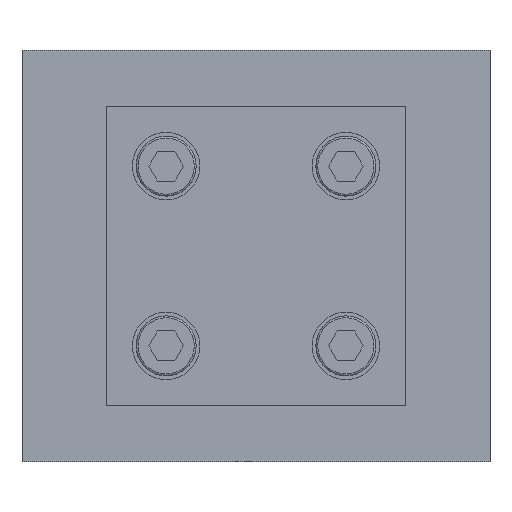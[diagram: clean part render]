
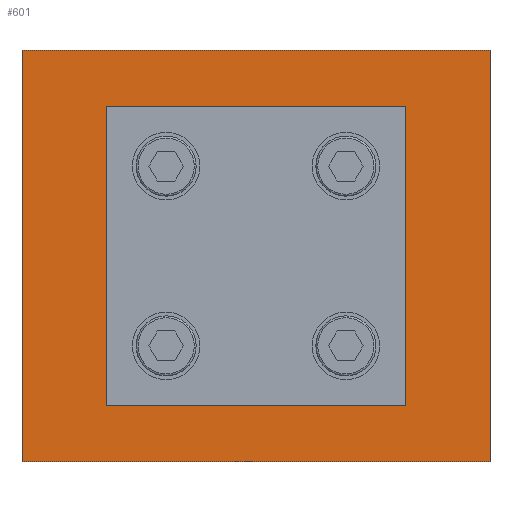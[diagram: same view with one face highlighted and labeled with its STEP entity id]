
A CAD part, left-side view. The second image highlights one B-rep face of the part: STEP entity #601.
In plain terms, the highlighted planar face has unit normal (-1, 0, 0).
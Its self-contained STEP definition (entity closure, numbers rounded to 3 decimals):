
#143=PLANE('',#4316);
#333=FACE_BOUND('',#1093,.T.);
#334=FACE_BOUND('',#1094,.T.);
#335=FACE_BOUND('',#1095,.T.);
#336=FACE_BOUND('',#1096,.T.);
#337=FACE_BOUND('',#1097,.T.);
#338=FACE_BOUND('',#1098,.T.);
#339=FACE_BOUND('',#1099,.T.);
#340=FACE_BOUND('',#1100,.T.);
#341=FACE_BOUND('',#1101,.T.);
#601=ADVANCED_FACE('',(#333,#334,#335,#336,#337,#338,#339,#340,#341),#143,
 .F.);
#1093=EDGE_LOOP('',(#1737,#1738,#1739,#1740));
#1094=EDGE_LOOP('',(#1741));
#1095=EDGE_LOOP('',(#1742,#1743,#1744,#1745));
#1096=EDGE_LOOP('',(#1746));
#1097=EDGE_LOOP('',(#1747,#1748,#1749,#1750));
#1098=EDGE_LOOP('',(#1751));
#1099=EDGE_LOOP('',(#1752,#1753,#1754,#1755));
#1100=EDGE_LOOP('',(#1756));
#1101=EDGE_LOOP('',(#1757,#1758,#1759,#1760));
#1530=CIRCLE('',#4304,5.);
#1531=CIRCLE('',#4305,4.85);
#1532=CIRCLE('',#4306,4.25);
#1533=CIRCLE('',#4307,5.);
#1534=CIRCLE('',#4308,4.85);
#1535=CIRCLE('',#4309,4.25);
#1536=CIRCLE('',#4310,4.25);
#1537=CIRCLE('',#4311,5.);
#1538=CIRCLE('',#4312,4.85);
#1539=CIRCLE('',#4313,4.25);
#1540=CIRCLE('',#4314,5.);
#1541=CIRCLE('',#4315,4.85);
#1737=ORIENTED_EDGE('',*,*,#3175,.F.);
#1738=ORIENTED_EDGE('',*,*,#3176,.T.);
#1739=ORIENTED_EDGE('',*,*,#3177,.F.);
#1740=ORIENTED_EDGE('',*,*,#3178,.F.);
#1741=ORIENTED_EDGE('',*,*,#3179,.T.);
#1742=ORIENTED_EDGE('',*,*,#3180,.F.);
#1743=ORIENTED_EDGE('',*,*,#3181,.T.);
#1744=ORIENTED_EDGE('',*,*,#3182,.F.);
#1745=ORIENTED_EDGE('',*,*,#3183,.F.);
#1746=ORIENTED_EDGE('',*,*,#3184,.T.);
#1747=ORIENTED_EDGE('',*,*,#3185,.T.);
#1748=ORIENTED_EDGE('',*,*,#3186,.F.);
#1749=ORIENTED_EDGE('',*,*,#3187,.F.);
#1750=ORIENTED_EDGE('',*,*,#3188,.T.);
#1751=ORIENTED_EDGE('',*,*,#3189,.T.);
#1752=ORIENTED_EDGE('',*,*,#3190,.F.);
#1753=ORIENTED_EDGE('',*,*,#3191,.T.);
#1754=ORIENTED_EDGE('',*,*,#3192,.F.);
#1755=ORIENTED_EDGE('',*,*,#3193,.F.);
#1756=ORIENTED_EDGE('',*,*,#3194,.T.);
#1757=ORIENTED_EDGE('',*,*,#3195,.F.);
#1758=ORIENTED_EDGE('',*,*,#3196,.T.);
#1759=ORIENTED_EDGE('',*,*,#3197,.F.);
#1760=ORIENTED_EDGE('',*,*,#3198,.F.);
#2776=VERTEX_POINT('',#7559);
#2777=VERTEX_POINT('',#7560);
#2778=VERTEX_POINT('',#7562);
#2779=VERTEX_POINT('',#7564);
#2780=VERTEX_POINT('',#7567);
#2781=VERTEX_POINT('',#7569);
#2782=VERTEX_POINT('',#7570);
#2783=VERTEX_POINT('',#7572);
#2784=VERTEX_POINT('',#7574);
#2785=VERTEX_POINT('',#7577);
#2786=VERTEX_POINT('',#7579);
#2787=VERTEX_POINT('',#7580);
#2788=VERTEX_POINT('',#7582);
#2789=VERTEX_POINT('',#7584);
#2790=VERTEX_POINT('',#7587);
#2791=VERTEX_POINT('',#7589);
#2792=VERTEX_POINT('',#7590);
#2793=VERTEX_POINT('',#7592);
#2794=VERTEX_POINT('',#7594);
#2795=VERTEX_POINT('',#7597);
#2796=VERTEX_POINT('',#7599);
#2797=VERTEX_POINT('',#7600);
#2798=VERTEX_POINT('',#7602);
#2799=VERTEX_POINT('',#7604);
#3175=EDGE_CURVE('',#2776,#2777,#3663,.T.);
#3176=EDGE_CURVE('',#2776,#2778,#1530,.T.);
#3177=EDGE_CURVE('',#2779,#2778,#3664,.T.);
#3178=EDGE_CURVE('',#2777,#2779,#1531,.T.);
#3179=EDGE_CURVE('',#2780,#2780,#1532,.T.);
#3180=EDGE_CURVE('',#2781,#2782,#3665,.T.);
#3181=EDGE_CURVE('',#2781,#2783,#1533,.T.);
#3182=EDGE_CURVE('',#2784,#2783,#3666,.T.);
#3183=EDGE_CURVE('',#2782,#2784,#1534,.T.);
#3184=EDGE_CURVE('',#2785,#2785,#1535,.T.);
#3185=EDGE_CURVE('',#2786,#2787,#3667,.T.);
#3186=EDGE_CURVE('',#2788,#2787,#3668,.T.);
#3187=EDGE_CURVE('',#2789,#2788,#3669,.T.);
#3188=EDGE_CURVE('',#2789,#2786,#3670,.T.);
#3189=EDGE_CURVE('',#2790,#2790,#1536,.T.);
#3190=EDGE_CURVE('',#2791,#2792,#3671,.T.);
#3191=EDGE_CURVE('',#2791,#2793,#1537,.T.);
#3192=EDGE_CURVE('',#2794,#2793,#3672,.T.);
#3193=EDGE_CURVE('',#2792,#2794,#1538,.T.);
#3194=EDGE_CURVE('',#2795,#2795,#1539,.T.);
#3195=EDGE_CURVE('',#2796,#2797,#3673,.T.);
#3196=EDGE_CURVE('',#2796,#2798,#1540,.T.);
#3197=EDGE_CURVE('',#2799,#2798,#3674,.T.);
#3198=EDGE_CURVE('',#2797,#2799,#1541,.T.);
#3663=LINE('',#7558,#3978);
#3664=LINE('',#7563,#3979);
#3665=LINE('',#7568,#3980);
#3666=LINE('',#7573,#3981);
#3667=LINE('',#7578,#3982);
#3668=LINE('',#7581,#3983);
#3669=LINE('',#7583,#3984);
#3670=LINE('',#7585,#3985);
#3671=LINE('',#7588,#3986);
#3672=LINE('',#7593,#3987);
#3673=LINE('',#7598,#3988);
#3674=LINE('',#7603,#3989);
#3978=VECTOR('',#4777,1.);
#3979=VECTOR('',#4780,1.);
#3980=VECTOR('',#4785,1.);
#3981=VECTOR('',#4788,1.);
#3982=VECTOR('',#4793,1.);
#3983=VECTOR('',#4794,1.);
#3984=VECTOR('',#4795,1.);
#3985=VECTOR('',#4796,1.);
#3986=VECTOR('',#4799,1.);
#3987=VECTOR('',#4802,1.);
#3988=VECTOR('',#4807,1.);
#3989=VECTOR('',#4810,1.);
#4304=AXIS2_PLACEMENT_3D('',#7561,#4778,#4779);
#4305=AXIS2_PLACEMENT_3D('',#7565,#4781,#4782);
#4306=AXIS2_PLACEMENT_3D('',#7566,#4783,#4784);
#4307=AXIS2_PLACEMENT_3D('',#7571,#4786,#4787);
#4308=AXIS2_PLACEMENT_3D('',#7575,#4789,#4790);
#4309=AXIS2_PLACEMENT_3D('',#7576,#4791,#4792);
#4310=AXIS2_PLACEMENT_3D('',#7586,#4797,#4798);
#4311=AXIS2_PLACEMENT_3D('',#7591,#4800,#4801);
#4312=AXIS2_PLACEMENT_3D('',#7595,#4803,#4804);
#4313=AXIS2_PLACEMENT_3D('',#7596,#4805,#4806);
#4314=AXIS2_PLACEMENT_3D('',#7601,#4808,#4809);
#4315=AXIS2_PLACEMENT_3D('',#7605,#4811,#4812);
#4316=AXIS2_PLACEMENT_3D('',#7606,#4813,#4814);
#4777=DIRECTION('',(0.,1.,0.));
#4778=DIRECTION('',(1.,0.,0.));
#4779=DIRECTION('',(0.,0.,-1.));
#4780=DIRECTION('',(0.,0.,1.));
#4781=DIRECTION('',(1.,0.,0.));
#4782=DIRECTION('',(0.,0.,-1.));
#4783=DIRECTION('',(1.,0.,0.));
#4784=DIRECTION('',(0.,0.,-1.));
#4785=DIRECTION('',(0.,1.,0.));
#4786=DIRECTION('',(1.,0.,0.));
#4787=DIRECTION('',(0.,0.,-1.));
#4788=DIRECTION('',(0.,0.,1.));
#4789=DIRECTION('',(1.,0.,0.));
#4790=DIRECTION('',(0.,0.,-1.));
#4791=DIRECTION('',(1.,0.,0.));
#4792=DIRECTION('',(0.,0.,-1.));
#4793=DIRECTION('',(0.,-1.,0.));
#4794=DIRECTION('',(0.,0.,-1.));
#4795=DIRECTION('',(0.,-1.,0.));
#4796=DIRECTION('',(0.,0.,-1.));
#4797=DIRECTION('',(1.,0.,0.));
#4798=DIRECTION('',(0.,0.,-1.));
#4799=DIRECTION('',(0.,1.,0.));
#4800=DIRECTION('',(1.,0.,0.));
#4801=DIRECTION('',(0.,0.,-1.));
#4802=DIRECTION('',(0.,0.,1.));
#4803=DIRECTION('',(1.,0.,0.));
#4804=DIRECTION('',(0.,0.,-1.));
#4805=DIRECTION('',(1.,0.,0.));
#4806=DIRECTION('',(0.,0.,-1.));
#4807=DIRECTION('',(0.,1.,0.));
#4808=DIRECTION('',(1.,0.,0.));
#4809=DIRECTION('',(0.,0.,-1.));
#4810=DIRECTION('',(0.,0.,1.));
#4811=DIRECTION('',(1.,0.,0.));
#4812=DIRECTION('',(0.,0.,-1.));
#4813=DIRECTION('',(1.,0.,0.));
#4814=DIRECTION('',(0.,0.,-1.));
#7558=CARTESIAN_POINT('',(-100.5,62.5,31.));
#7559=CARTESIAN_POINT('',(-100.5,-29.,31.));
#7560=CARTESIAN_POINT('',(-100.5,-28.85,31.));
#7561=CARTESIAN_POINT('',(-100.5,-24.,31.));
#7562=CARTESIAN_POINT('',(-100.5,-24.,36.));
#7563=CARTESIAN_POINT('',(-100.5,-24.,110.));
#7564=CARTESIAN_POINT('',(-100.5,-24.,35.85));
#7565=CARTESIAN_POINT('',(-100.5,-24.,31.));
#7566=CARTESIAN_POINT('',(-100.5,-24.,31.));
#7567=CARTESIAN_POINT('',(-100.5,-24.,26.75));
#7568=CARTESIAN_POINT('',(-100.5,62.5,79.));
#7569=CARTESIAN_POINT('',(-100.5,19.,79.));
#7570=CARTESIAN_POINT('',(-100.5,19.15,79.));
#7571=CARTESIAN_POINT('',(-100.5,24.,79.));
#7572=CARTESIAN_POINT('',(-100.5,24.,84.));
#7573=CARTESIAN_POINT('',(-100.5,24.,110.));
#7574=CARTESIAN_POINT('',(-100.5,24.,83.85));
#7575=CARTESIAN_POINT('',(-100.5,24.,79.));
#7576=CARTESIAN_POINT('',(-100.5,24.,79.));
#7577=CARTESIAN_POINT('',(-100.5,24.,74.75));
#7578=CARTESIAN_POINT('',(-100.5,62.5,0.));
#7579=CARTESIAN_POINT('',(-100.5,62.5,0.));
#7580=CARTESIAN_POINT('',(-100.5,-62.5,0.));
#7581=CARTESIAN_POINT('',(-100.5,-62.5,110.));
#7582=CARTESIAN_POINT('',(-100.5,-62.5,110.));
#7583=CARTESIAN_POINT('',(-100.5,62.5,110.));
#7584=CARTESIAN_POINT('',(-100.5,62.5,110.));
#7585=CARTESIAN_POINT('',(-100.5,62.5,110.));
#7586=CARTESIAN_POINT('',(-100.5,-24.,79.));
#7587=CARTESIAN_POINT('',(-100.5,-24.,74.75));
#7588=CARTESIAN_POINT('',(-100.5,62.5,79.));
#7589=CARTESIAN_POINT('',(-100.5,-29.,79.));
#7590=CARTESIAN_POINT('',(-100.5,-28.85,79.));
#7591=CARTESIAN_POINT('',(-100.5,-24.,79.));
#7592=CARTESIAN_POINT('',(-100.5,-24.,84.));
#7593=CARTESIAN_POINT('',(-100.5,-24.,110.));
#7594=CARTESIAN_POINT('',(-100.5,-24.,83.85));
#7595=CARTESIAN_POINT('',(-100.5,-24.,79.));
#7596=CARTESIAN_POINT('',(-100.5,24.,31.));
#7597=CARTESIAN_POINT('',(-100.5,24.,26.75));
#7598=CARTESIAN_POINT('',(-100.5,62.5,31.));
#7599=CARTESIAN_POINT('',(-100.5,19.,31.));
#7600=CARTESIAN_POINT('',(-100.5,19.15,31.));
#7601=CARTESIAN_POINT('',(-100.5,24.,31.));
#7602=CARTESIAN_POINT('',(-100.5,24.,36.));
#7603=CARTESIAN_POINT('',(-100.5,24.,110.));
#7604=CARTESIAN_POINT('',(-100.5,24.,35.85));
#7605=CARTESIAN_POINT('',(-100.5,24.,31.));
#7606=CARTESIAN_POINT('',(-100.5,62.5,110.));
